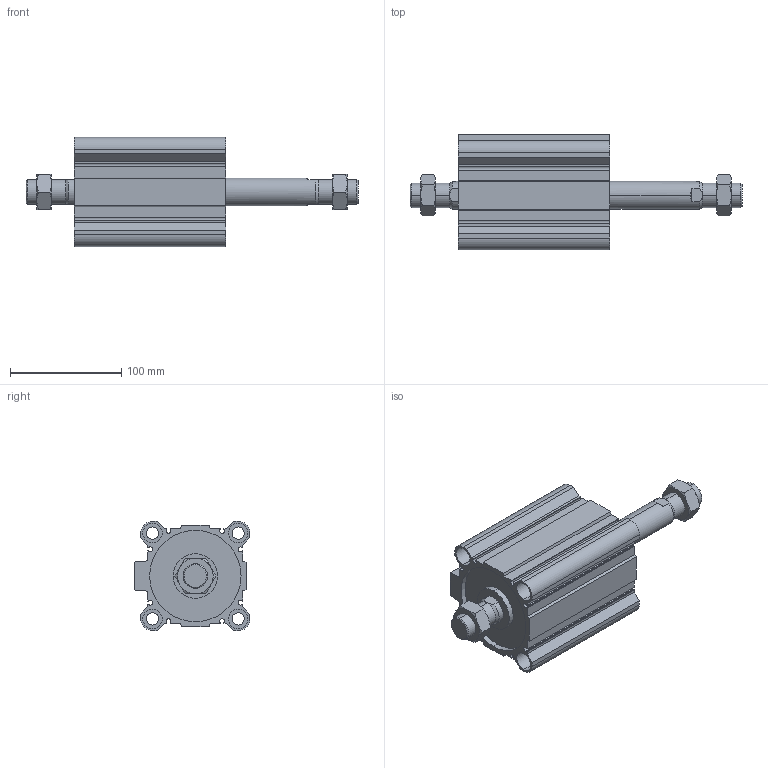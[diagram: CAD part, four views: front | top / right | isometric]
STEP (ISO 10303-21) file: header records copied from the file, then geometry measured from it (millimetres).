
FILE_DESCRIPTION (( 'STEP AP203' ), '1' );
FILE_NAME ('CCMB80-75M-P.STEP', '2020-08-10T11:56:02', ( '' ), ( '' ), 'SwSTEP 2.0', 'SolidWorks 2019', '' );
FILE_SCHEMA (( 'CONFIG_CONTROL_DESIGN' ));
Length unit declared in the file: millimetre
Products named in the file (1): CCMB80-75M-P
Bounding box: 298 x 104 x 98 mm (x, y, z)
Volume: 770060.9 mm3; surface area: 194209.1 mm2
Topology: 4 solids, 4 shells, 228 faces, 558 edges, 356 vertices
Faces by surface type: plane 106, cylinder 78, cone 44
Entity records: 7569 total; most frequent: CARTESIAN_POINT 2055, DIRECTION 1148, ORIENTED_EDGE 1116, EDGE_CURVE 558, AXIS2_PLACEMENT_3D 425, VERTEX_POINT 356, LINE 298, VECTOR 298
